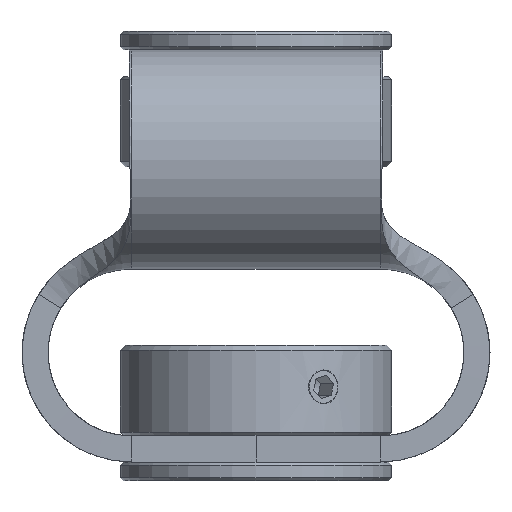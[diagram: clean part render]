
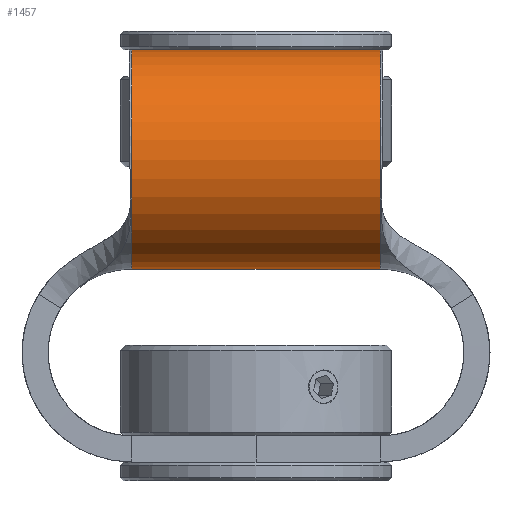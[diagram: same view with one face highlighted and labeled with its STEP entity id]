
A CAD part, front view. The second image highlights one B-rep face of the part: STEP entity #1457.
In plain terms, the highlighted cylindrical face has radius 10.5 mm (diameter 21 mm), a partial arc.
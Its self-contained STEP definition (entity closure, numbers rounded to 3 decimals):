
#127=CYLINDRICAL_SURFACE('',#1595,10.5);
#173=FACE_OUTER_BOUND('',#275,.T.);
#275=EDGE_LOOP('',(#1074,#1075,#1076,#1077));
#392=CIRCLE('',#1559,10.5);
#415=CIRCLE('',#1596,10.5);
#511=LINE('',#2413,#605);
#512=LINE('',#2416,#606);
#605=VECTOR('',#1887,23.867);
#606=VECTOR('',#1890,23.867);
#677=VERTEX_POINT('',#2275);
#678=VERTEX_POINT('',#2280);
#711=VERTEX_POINT('',#2412);
#712=VERTEX_POINT('',#2414);
#801=EDGE_CURVE('',#678,#677,#392,.T.);
#852=EDGE_CURVE('',#711,#677,#511,.T.);
#853=EDGE_CURVE('',#711,#712,#415,.T.);
#854=EDGE_CURVE('',#678,#712,#512,.T.);
#1074=ORIENTED_EDGE('',*,*,#801,.T.);
#1075=ORIENTED_EDGE('',*,*,#852,.F.);
#1076=ORIENTED_EDGE('',*,*,#853,.T.);
#1077=ORIENTED_EDGE('',*,*,#854,.F.);
#1457=ADVANCED_FACE('',(#173),#127,.T.);
#1559=AXIS2_PLACEMENT_3D('',#2281,#1788,#1789);
#1595=AXIS2_PLACEMENT_3D('',#2411,#1885,#1886);
#1596=AXIS2_PLACEMENT_3D('',#2415,#1888,#1889);
#1788=DIRECTION('center_axis',(1.,0.,0.));
#1789=DIRECTION('ref_axis',(0.,-1.,0.));
#1885=DIRECTION('center_axis',(-1.,0.,0.));
#1886=DIRECTION('ref_axis',(0.,-1.,0.));
#1887=DIRECTION('',(-1.,0.,0.));
#1888=DIRECTION('center_axis',(-1.,0.,0.));
#1889=DIRECTION('ref_axis',(0.,-1.,0.));
#1890=DIRECTION('',(1.,0.,0.));
#2275=CARTESIAN_POINT('',(35.5,-16.867,0.));
#2280=CARTESIAN_POINT('',(35.5,-16.867,21.));
#2281=CARTESIAN_POINT('Origin',(35.5,-16.867,10.5));
#2411=CARTESIAN_POINT('Origin',(47.434,-16.867,10.5));
#2412=CARTESIAN_POINT('',(59.367,-16.867,0.));
#2413=CARTESIAN_POINT('',(41.934,-16.867,0.));
#2414=CARTESIAN_POINT('',(59.367,-16.867,21.));
#2415=CARTESIAN_POINT('Origin',(59.367,-16.867,10.5));
#2416=CARTESIAN_POINT('',(41.934,-16.867,21.));
